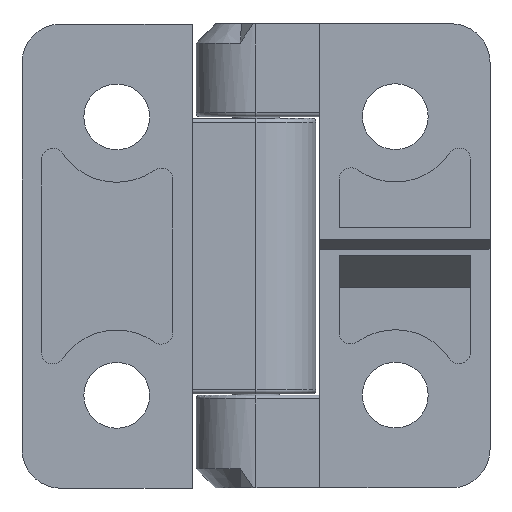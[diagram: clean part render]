
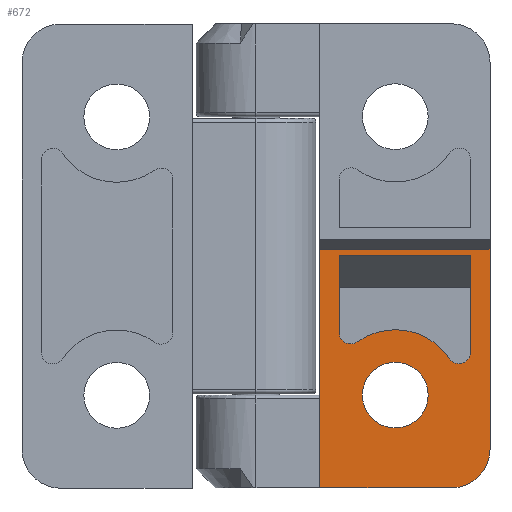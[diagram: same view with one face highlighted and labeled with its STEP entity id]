
A CAD part, front view. The second image highlights one B-rep face of the part: STEP entity #672.
In plain terms, the highlighted planar face has unit normal (0, -1, 0).
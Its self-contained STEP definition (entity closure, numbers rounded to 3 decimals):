
#2 = CARTESIAN_POINT ( 'NONE',  ( -47.661, -17.614, 30. ) ) ;
#28 = AXIS2_PLACEMENT_3D ( 'NONE', #885, #1813, #4298 ) ;
#32 = EDGE_CURVE ( 'NONE', #2762, #1639, #1113, .T. ) ;
#38 = EDGE_LOOP ( 'NONE', ( #1434, #1562, #4309, #1347, #3111, #4000, #3487, #1436 ) ) ;
#116 = EDGE_LOOP ( 'NONE', ( #557, #2780 ) ) ;
#118 = EDGE_CURVE ( 'NONE', #1008, #3936, #1202, .T. ) ;
#123 = DIRECTION ( 'NONE',  ( 0., 0., -1. ) ) ;
#138 = CARTESIAN_POINT ( 'NONE',  ( -65.661, -17.614, -9.88 ) ) ;
#149 = ORIENTED_EDGE ( 'NONE', *, *, #3878, .T. ) ;
#200 = EDGE_CURVE ( 'NONE', #2078, #4324, #3993, .T. ) ;
#264 = CARTESIAN_POINT ( 'NONE',  ( -69.661, -17.614, 0.88 ) ) ;
#320 = CARTESIAN_POINT ( 'NONE',  ( -55.661, -17.614, -18. ) ) ;
#395 = DIRECTION ( 'NONE',  ( 0., -1., 0. ) ) ;
#424 = EDGE_CURVE ( 'NONE', #3936, #1639, #1021, .T. ) ;
#434 = VECTOR ( 'NONE', #4270, 1000. ) ;
#485 = CARTESIAN_POINT ( 'NONE',  ( -52.661, -17.614, -30. ) ) ;
#502 = CARTESIAN_POINT ( 'NONE',  ( -72.661, -17.614, 0.88 ) ) ;
#512 = ORIENTED_EDGE ( 'NONE', *, *, #118, .F. ) ;
#543 = AXIS2_PLACEMENT_3D ( 'NONE', #2792, #2114, #3112 ) ;
#557 = ORIENTED_EDGE ( 'NONE', *, *, #1553, .T. ) ;
#614 = CARTESIAN_POINT ( 'NONE',  ( -51.661, -17.614, -13.938 ) ) ;
#659 = DIRECTION ( 'NONE',  ( 0., 0., -1. ) ) ;
#661 = ORIENTED_EDGE ( 'NONE', *, *, #3043, .T. ) ;
#672 = ADVANCED_FACE ( 'NONE', ( #675, #4110, #4132 ), #2063, .F. ) ;
#675 = FACE_BOUND ( 'NONE', #38, .T. ) ;
#771 = CARTESIAN_POINT ( 'NONE',  ( -69.661, -17.614, 30. ) ) ;
#802 = CARTESIAN_POINT ( 'NONE',  ( -64.794, -17.614, -11.104 ) ) ;
#817 = CARTESIAN_POINT ( 'NONE',  ( -67.161, -17.614, -9.88 ) ) ;
#837 = DIRECTION ( 'NONE',  ( 0., 0., -1. ) ) ;
#852 = CIRCLE ( 'NONE', #3884, 8.45 ) ;
#885 = CARTESIAN_POINT ( 'NONE',  ( -51.661, -17.614, -12.438 ) ) ;
#888 = CARTESIAN_POINT ( 'NONE',  ( -50.161, -17.614, -12.438 ) ) ;
#914 = DIRECTION ( 'NONE',  ( 1., 0., 0. ) ) ;
#964 = AXIS2_PLACEMENT_3D ( 'NONE', #3484, #395, #1764 ) ;
#967 = ORIENTED_EDGE ( 'NONE', *, *, #424, .F. ) ;
#1008 = VERTEX_POINT ( 'NONE', #264 ) ;
#1021 = LINE ( 'NONE', #2, #2917 ) ;
#1047 = LINE ( 'NONE', #2760, #2870 ) ;
#1090 = CIRCLE ( 'NONE', #1234, 4.25 ) ;
#1113 = CIRCLE ( 'NONE', #964, 5. ) ;
#1125 = CARTESIAN_POINT ( 'NONE',  ( -64.161, -17.614, -18. ) ) ;
#1154 = VERTEX_POINT ( 'NONE', #3785 ) ;
#1156 = VECTOR ( 'NONE', #1755, 1000. ) ;
#1180 = DIRECTION ( 'NONE',  ( 0., -1., 0. ) ) ;
#1202 = LINE ( 'NONE', #502, #1473 ) ;
#1234 = AXIS2_PLACEMENT_3D ( 'NONE', #3259, #2585, #2543 ) ;
#1254 = EDGE_CURVE ( 'NONE', #2117, #1866, #3394, .T. ) ;
#1273 = EDGE_CURVE ( 'NONE', #3665, #1532, #4043, .T. ) ;
#1347 = ORIENTED_EDGE ( 'NONE', *, *, #200, .F. ) ;
#1353 = CARTESIAN_POINT ( 'NONE',  ( -67.161, -17.614, -4.12 ) ) ;
#1399 = CARTESIAN_POINT ( 'NONE',  ( -59.911, -17.614, -18. ) ) ;
#1434 = ORIENTED_EDGE ( 'NONE', *, *, #3732, .F. ) ;
#1436 = ORIENTED_EDGE ( 'NONE', *, *, #2268, .F. ) ;
#1439 = CARTESIAN_POINT ( 'NONE',  ( -67.161, -17.614, 0.076 ) ) ;
#1473 = VECTOR ( 'NONE', #3189, 1000. ) ;
#1532 = VERTEX_POINT ( 'NONE', #1125 ) ;
#1553 = EDGE_CURVE ( 'NONE', #1532, #3665, #1090, .T. ) ;
#1562 = ORIENTED_EDGE ( 'NONE', *, *, #2965, .T. ) ;
#1624 = CARTESIAN_POINT ( 'NONE',  ( -52.904, -17.614, -13.276 ) ) ;
#1639 = VERTEX_POINT ( 'NONE', #4003 ) ;
#1733 = AXIS2_PLACEMENT_3D ( 'NONE', #3899, #2856, #123 ) ;
#1755 = DIRECTION ( 'NONE',  ( 0., 0., -1. ) ) ;
#1764 = DIRECTION ( 'NONE',  ( 0., 0., 1. ) ) ;
#1796 = CARTESIAN_POINT ( 'NONE',  ( -50.161, -17.614, 0.076 ) ) ;
#1813 = DIRECTION ( 'NONE',  ( 0., -1., 0. ) ) ;
#1856 = AXIS2_PLACEMENT_3D ( 'NONE', #3238, #4180, #3577 ) ;
#1866 = VERTEX_POINT ( 'NONE', #802 ) ;
#1926 = VECTOR ( 'NONE', #914, 1000. ) ;
#2019 = VERTEX_POINT ( 'NONE', #1624 ) ;
#2048 = DIRECTION ( 'NONE',  ( 0., 1., 0. ) ) ;
#2063 = PLANE ( 'NONE',  #543 ) ;
#2078 = VERTEX_POINT ( 'NONE', #614 ) ;
#2096 = DIRECTION ( 'NONE',  ( 0., 0., -1. ) ) ;
#2105 = DIRECTION ( 'NONE',  ( 1., 0., 0. ) ) ;
#2114 = DIRECTION ( 'NONE',  ( 0., 1., 0. ) ) ;
#2115 = DIRECTION ( 'NONE',  ( 0., 0., 1. ) ) ;
#2117 = VERTEX_POINT ( 'NONE', #3639 ) ;
#2268 = EDGE_CURVE ( 'NONE', #2270, #2117, #3365, .T. ) ;
#2270 = VERTEX_POINT ( 'NONE', #817 ) ;
#2300 = VECTOR ( 'NONE', #2115, 1000. ) ;
#2503 = CARTESIAN_POINT ( 'NONE',  ( -59.911, -17.614, -18. ) ) ;
#2543 = DIRECTION ( 'NONE',  ( 0., 0., 1. ) ) ;
#2582 = EDGE_CURVE ( 'NONE', #1866, #2019, #852, .T. ) ;
#2585 = DIRECTION ( 'NONE',  ( 0., 1., 0. ) ) ;
#2605 = ORIENTED_EDGE ( 'NONE', *, *, #32, .T. ) ;
#2627 = CARTESIAN_POINT ( 'NONE',  ( -69.661, -17.614, 0.076 ) ) ;
#2742 = AXIS2_PLACEMENT_3D ( 'NONE', #2503, #3874, #2875 ) ;
#2760 = CARTESIAN_POINT ( 'NONE',  ( -69.661, -17.614, -30. ) ) ;
#2762 = VERTEX_POINT ( 'NONE', #485 ) ;
#2774 = EDGE_CURVE ( 'NONE', #2019, #2078, #3298, .T. ) ;
#2780 = ORIENTED_EDGE ( 'NONE', *, *, #1273, .T. ) ;
#2792 = CARTESIAN_POINT ( 'NONE',  ( -69.661, -17.614, 30. ) ) ;
#2841 = LINE ( 'NONE', #3560, #2300 ) ;
#2856 = DIRECTION ( 'NONE',  ( 0., -1., 0. ) ) ;
#2870 = VECTOR ( 'NONE', #2105, 1000. ) ;
#2875 = DIRECTION ( 'NONE',  ( 0., 0., 1. ) ) ;
#2884 = LINE ( 'NONE', #771, #434 ) ;
#2917 = VECTOR ( 'NONE', #2096, 1000. ) ;
#2965 = EDGE_CURVE ( 'NONE', #4198, #4362, #2967, .T. ) ;
#2967 = LINE ( 'NONE', #2627, #1926 ) ;
#3006 = AXIS2_PLACEMENT_3D ( 'NONE', #138, #1180, #837 ) ;
#3043 = EDGE_CURVE ( 'NONE', #1154, #2762, #1047, .T. ) ;
#3065 = LINE ( 'NONE', #1353, #1156 ) ;
#3111 = ORIENTED_EDGE ( 'NONE', *, *, #2774, .F. ) ;
#3112 = DIRECTION ( 'NONE',  ( 1., 0., 0. ) ) ;
#3189 = DIRECTION ( 'NONE',  ( 1., 0., 0. ) ) ;
#3238 = CARTESIAN_POINT ( 'NONE',  ( -51.661, -17.614, -12.438 ) ) ;
#3259 = CARTESIAN_POINT ( 'NONE',  ( -59.911, -17.614, -18. ) ) ;
#3282 = EDGE_LOOP ( 'NONE', ( #967, #512, #149, #661, #2605 ) ) ;
#3298 = CIRCLE ( 'NONE', #1856, 1.5 ) ;
#3365 = CIRCLE ( 'NONE', #3006, 1.5 ) ;
#3394 = CIRCLE ( 'NONE', #1733, 1.5 ) ;
#3484 = CARTESIAN_POINT ( 'NONE',  ( -52.661, -17.614, -25. ) ) ;
#3487 = ORIENTED_EDGE ( 'NONE', *, *, #1254, .F. ) ;
#3560 = CARTESIAN_POINT ( 'NONE',  ( -50.161, -17.614, -12.438 ) ) ;
#3577 = DIRECTION ( 'NONE',  ( 0., 0., -1. ) ) ;
#3629 = CARTESIAN_POINT ( 'NONE',  ( -47.661, -17.614, 0.88 ) ) ;
#3639 = CARTESIAN_POINT ( 'NONE',  ( -65.661, -17.614, -11.38 ) ) ;
#3665 = VERTEX_POINT ( 'NONE', #320 ) ;
#3732 = EDGE_CURVE ( 'NONE', #4198, #2270, #3065, .T. ) ;
#3767 = EDGE_CURVE ( 'NONE', #4324, #4362, #2841, .T. ) ;
#3785 = CARTESIAN_POINT ( 'NONE',  ( -69.661, -17.614, -30. ) ) ;
#3874 = DIRECTION ( 'NONE',  ( 0., 1., 0. ) ) ;
#3878 = EDGE_CURVE ( 'NONE', #1008, #1154, #2884, .T. ) ;
#3884 = AXIS2_PLACEMENT_3D ( 'NONE', #1399, #2048, #659 ) ;
#3899 = CARTESIAN_POINT ( 'NONE',  ( -65.661, -17.614, -9.88 ) ) ;
#3936 = VERTEX_POINT ( 'NONE', #3629 ) ;
#3993 = CIRCLE ( 'NONE', #28, 1.5 ) ;
#4000 = ORIENTED_EDGE ( 'NONE', *, *, #2582, .F. ) ;
#4003 = CARTESIAN_POINT ( 'NONE',  ( -47.661, -17.614, -25. ) ) ;
#4043 = CIRCLE ( 'NONE', #2742, 4.25 ) ;
#4110 = FACE_BOUND ( 'NONE', #116, .T. ) ;
#4132 = FACE_OUTER_BOUND ( 'NONE', #3282, .T. ) ;
#4180 = DIRECTION ( 'NONE',  ( 0., -1., 0. ) ) ;
#4198 = VERTEX_POINT ( 'NONE', #1439 ) ;
#4270 = DIRECTION ( 'NONE',  ( 0., 0., -1. ) ) ;
#4298 = DIRECTION ( 'NONE',  ( 0., 0., -1. ) ) ;
#4309 = ORIENTED_EDGE ( 'NONE', *, *, #3767, .F. ) ;
#4324 = VERTEX_POINT ( 'NONE', #888 ) ;
#4362 = VERTEX_POINT ( 'NONE', #1796 ) ;
